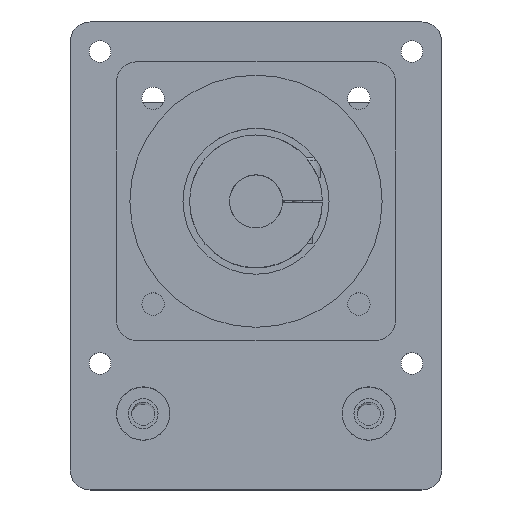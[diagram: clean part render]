
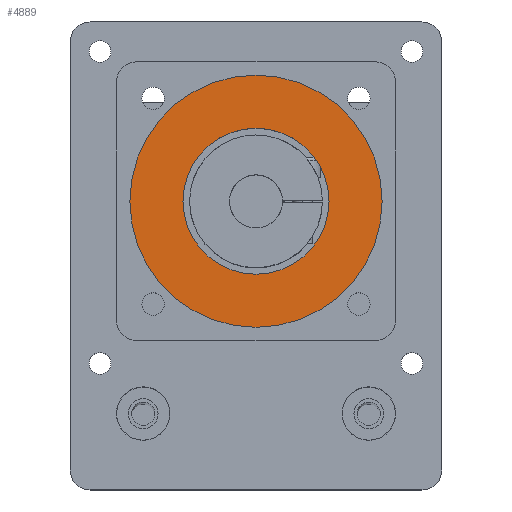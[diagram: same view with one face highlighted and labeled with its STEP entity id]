
A CAD part, top view. The second image highlights one B-rep face of the part: STEP entity #4889.
In plain terms, the highlighted planar face has unit normal (0, 0, 1).
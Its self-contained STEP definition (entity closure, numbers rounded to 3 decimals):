
#701 = DIRECTION ( 'NONE',  ( 0., 0., 1. ) ) ;
#1229 = CARTESIAN_POINT ( 'NONE',  ( 1.57, 16.112, 6. ) ) ;
#1238 = EDGE_CURVE ( 'NONE', #19503, #5608, #2961, .T. ) ;
#1861 = CARTESIAN_POINT ( 'NONE',  ( 20.57, 16.112, 6. ) ) ;
#2600 = VERTEX_POINT ( 'NONE', #30971 ) ;
#2961 = CIRCLE ( 'NONE', #22821, 19. ) ;
#3097 = AXIS2_PLACEMENT_3D ( 'NONE', #19660, #29967, #5707 ) ;
#3218 = DIRECTION ( 'NONE',  ( 0., 0., 1. ) ) ;
#3432 = DIRECTION ( 'NONE',  ( 1., 0., 0. ) ) ;
#4731 = CIRCLE ( 'NONE', #3097, 11. ) ;
#4889 = ADVANCED_FACE ( 'NONE', ( #8134, #28699 ), #6116, .T. ) ;
#5483 = CARTESIAN_POINT ( 'NONE',  ( -9.43, 16.112, 6. ) ) ;
#5608 = VERTEX_POINT ( 'NONE', #15586 ) ;
#5625 = DIRECTION ( 'NONE',  ( 0., 0., 1. ) ) ;
#5707 = DIRECTION ( 'NONE',  ( 1., 0., 0. ) ) ;
#5812 = AXIS2_PLACEMENT_3D ( 'NONE', #23926, #701, #10971 ) ;
#6113 = AXIS2_PLACEMENT_3D ( 'NONE', #20705, #3218, #23070 ) ;
#6116 = PLANE ( 'NONE',  #16845 ) ;
#8134 = FACE_BOUND ( 'NONE', #32726, .T. ) ;
#9219 = ORIENTED_EDGE ( 'NONE', *, *, #1238, .T. ) ;
#10504 = ORIENTED_EDGE ( 'NONE', *, *, #32790, .F. ) ;
#10971 = DIRECTION ( 'NONE',  ( 1., 0., 0. ) ) ;
#12785 = CIRCLE ( 'NONE', #5812, 11. ) ;
#15586 = CARTESIAN_POINT ( 'NONE',  ( -17.43, 16.112, 6. ) ) ;
#15914 = ORIENTED_EDGE ( 'NONE', *, *, #25898, .T. ) ;
#16845 = AXIS2_PLACEMENT_3D ( 'NONE', #1229, #5625, #3432 ) ;
#19503 = VERTEX_POINT ( 'NONE', #1861 ) ;
#19660 = CARTESIAN_POINT ( 'NONE',  ( 1.57, 16.112, 6. ) ) ;
#19784 = EDGE_CURVE ( 'NONE', #2600, #23658, #12785, .T. ) ;
#20705 = CARTESIAN_POINT ( 'NONE',  ( 1.57, 16.112, 6. ) ) ;
#21431 = ORIENTED_EDGE ( 'NONE', *, *, #19784, .F. ) ;
#21689 = CIRCLE ( 'NONE', #6113, 19. ) ;
#22107 = EDGE_LOOP ( 'NONE', ( #9219, #15914 ) ) ;
#22821 = AXIS2_PLACEMENT_3D ( 'NONE', #24916, #29815, #27276 ) ;
#23070 = DIRECTION ( 'NONE',  ( 1., 0., 0. ) ) ;
#23658 = VERTEX_POINT ( 'NONE', #5483 ) ;
#23926 = CARTESIAN_POINT ( 'NONE',  ( 1.57, 16.112, 6. ) ) ;
#24916 = CARTESIAN_POINT ( 'NONE',  ( 1.57, 16.112, 6. ) ) ;
#25898 = EDGE_CURVE ( 'NONE', #5608, #19503, #21689, .T. ) ;
#27276 = DIRECTION ( 'NONE',  ( 1., 0., 0. ) ) ;
#28699 = FACE_OUTER_BOUND ( 'NONE', #22107, .T. ) ;
#29815 = DIRECTION ( 'NONE',  ( 0., 0., 1. ) ) ;
#29967 = DIRECTION ( 'NONE',  ( 0., 0., 1. ) ) ;
#30971 = CARTESIAN_POINT ( 'NONE',  ( 12.57, 16.112, 6. ) ) ;
#32726 = EDGE_LOOP ( 'NONE', ( #21431, #10504 ) ) ;
#32790 = EDGE_CURVE ( 'NONE', #23658, #2600, #4731, .T. ) ;
